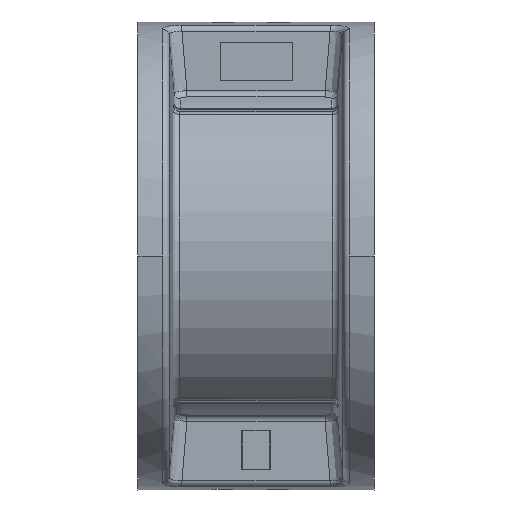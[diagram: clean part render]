
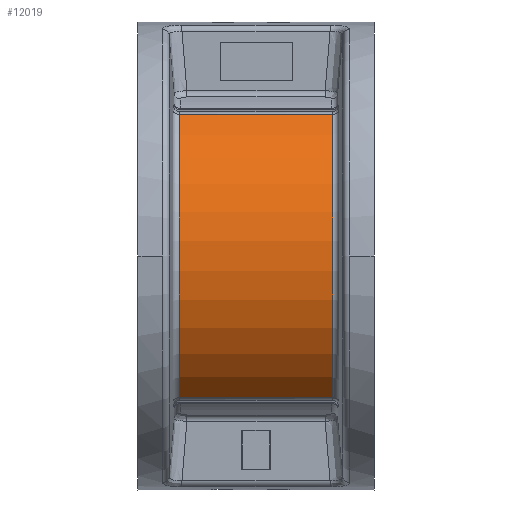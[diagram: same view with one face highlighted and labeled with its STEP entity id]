
A CAD part, left-side view. The second image highlights one B-rep face of the part: STEP entity #12019.
In plain terms, the highlighted cylindrical face has radius 41 mm (diameter 82 mm), a partial arc.
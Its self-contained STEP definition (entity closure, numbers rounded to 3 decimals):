
#6145=EDGE_CURVE('',#16080,#16655,#16656,.T.);
#7280=EDGE_CURVE('',#18468,#18469,#18470,.T.);
#8479=EDGE_CURVE('',#18469,#16080,#20247,.T.);
#10860=EDGE_CURVE('',#16655,#18468,#23432,.T.);
#12019=ADVANCED_FACE('',(#24862),#24863,.T.);
#16080=VERTEX_POINT('',#32399);
#16655=VERTEX_POINT('',#34558);
#16656=CIRCLE('',#34559,41.0);
#18468=VERTEX_POINT('',#42317);
#18469=VERTEX_POINT('',#42318);
#18470=CIRCLE('',#42319,41.0);
#20247=LINE('',#49677,#49678);
#23432=LINE('',#63335,#63336);
#24862=FACE_OUTER_BOUND('',#70056,.T.);
#24863=CYLINDRICAL_SURFACE('',#70057,41.0);
#32399=CARTESIAN_POINT('',(-25.171,34.532,32.364));
#34558=CARTESIAN_POINT('',(-25.171,34.532,-32.364));
#34559=AXIS2_PLACEMENT_3D('',#87202,#87203,#87204);
#42317=CARTESIAN_POINT('',(-25.171,-0.532,-32.364));
#42318=CARTESIAN_POINT('',(-25.171,-0.532,32.364));
#42319=AXIS2_PLACEMENT_3D('',#88656,#88657,#88658);
#49677=CARTESIAN_POINT('',(-25.171,-0.532,32.364));
#49678=VECTOR('',#90538,35.064);
#63335=CARTESIAN_POINT('',(-25.171,34.532,-32.364));
#63336=VECTOR('',#94283,35.064);
#70056=EDGE_LOOP('',(#96029,#96030,#96031,#96032));
#70057=AXIS2_PLACEMENT_3D('',#96033,#96034,#96035);
#87202=CARTESIAN_POINT('',(0.0,34.532,0.0));
#87203=DIRECTION('',(0.0,-1.0,0.0));
#87204=DIRECTION('',(-0.614,0.0,0.789));
#88656=CARTESIAN_POINT('',(0.0,-0.532,0.0));
#88657=DIRECTION('',(0.0,1.0,0.0));
#88658=DIRECTION('',(-0.614,0.0,-0.789));
#90538=DIRECTION('',(0.,1.0,0.));
#94283=DIRECTION('',(0.,-1.0,0.));
#96029=ORIENTED_EDGE('',*,*,#8479,.T.);
#96030=ORIENTED_EDGE('',*,*,#6145,.T.);
#96031=ORIENTED_EDGE('',*,*,#10860,.T.);
#96032=ORIENTED_EDGE('',*,*,#7280,.T.);
#96033=CARTESIAN_POINT('',(0.0,-10.5,0.0));
#96034=DIRECTION('',(0.0,-1.0,0.0));
#96035=DIRECTION('',(0.5,0.0,0.866));
